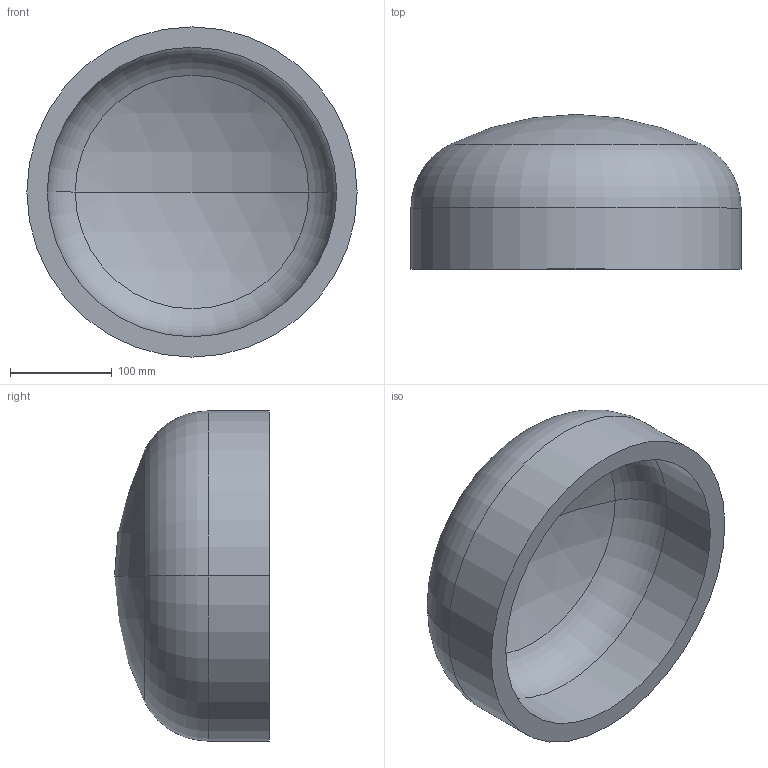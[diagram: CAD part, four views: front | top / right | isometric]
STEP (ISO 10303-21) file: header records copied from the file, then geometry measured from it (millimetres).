
FILE_DESCRIPTION (( 'STEP AP203' ), '1' );
FILE_NAME ('DIN 28013 Korbbogenform_-_Boden DIN 28013 - 323,9 x 60 - I - s=20.step', '2016-07-01T07:44:45', ( '' ), ( '' ), 'SwSTEP 2.0', 'SolidWorks 2013', '' );
FILE_SCHEMA (( 'CONFIG_CONTROL_DESIGN' ));
Length unit declared in the file: millimetre
Products named in the file (1): DIN 28013 Korbbogenform_-_Boden DIN 28013 - 323,9 x 60 - I - s=20
Bounding box: 323.9 x 151.9 x 323.9 mm (x, y, z)
Volume: 3258663.8 mm3; surface area: 345798.7 mm2
Topology: 1 solids, 1 shells, 13 faces, 24 edges, 14 vertices
Faces by surface type: torus 4, cylinder 4, sphere 4, plane 1
Entity records: 407 total; most frequent: DIRECTION 72, CARTESIAN_POINT 52, ORIENTED_EDGE 48, AXIS2_PLACEMENT_3D 34, EDGE_CURVE 24, CIRCLE 20, EDGE_LOOP 14, VERTEX_POINT 14
